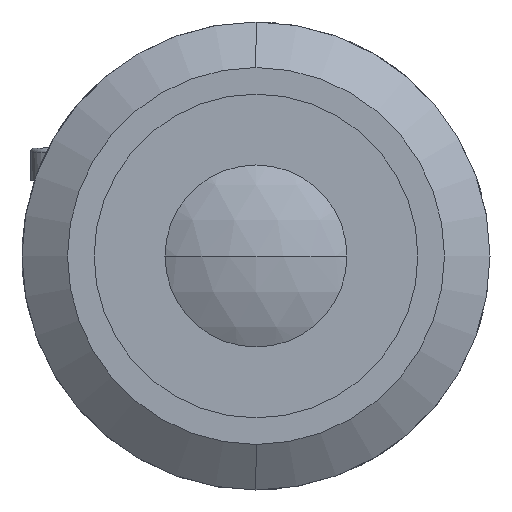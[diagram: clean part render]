
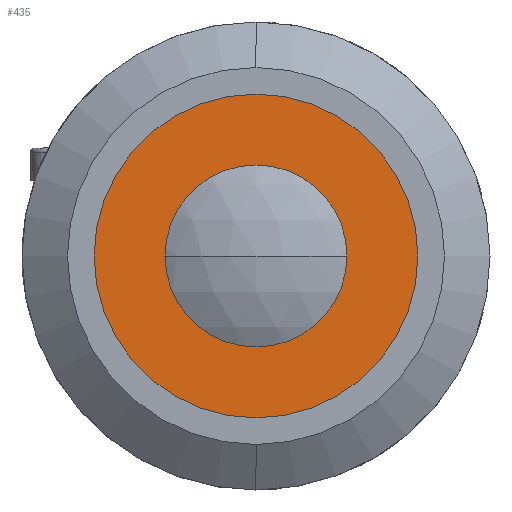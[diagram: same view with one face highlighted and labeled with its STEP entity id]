
A CAD part, left-side view. The second image highlights one B-rep face of the part: STEP entity #435.
In plain terms, the highlighted planar face has unit normal (-1, 0, 0).
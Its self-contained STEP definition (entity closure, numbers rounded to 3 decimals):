
#24 = ORIENTED_EDGE ( 'NONE', *, *, #46, .F. ) ;
#46 = EDGE_CURVE ( 'NONE', #2721, #3074, #2864, .T. ) ;
#83 = ORIENTED_EDGE ( 'NONE', *, *, #215, .T. ) ;
#105 = ORIENTED_EDGE ( 'NONE', *, *, #117, .T. ) ;
#117 = EDGE_CURVE ( 'NONE', #3354, #1066, #2654, .T. ) ;
#181 = EDGE_LOOP ( 'NONE', ( #3461, #24 ) ) ;
#215 = EDGE_CURVE ( 'NONE', #1066, #3354, #2392, .T. ) ;
#368 = DIRECTION ( 'NONE',  ( 0., 0., 1. ) ) ;
#435 = ADVANCED_FACE ( 'NONE', ( #1923, #2050 ), #3325, .F. ) ;
#569 = DIRECTION ( 'NONE',  ( -1., 0., 0. ) ) ;
#584 = CARTESIAN_POINT ( 'NONE',  ( 3.8, 0., 0. ) ) ;
#614 = EDGE_LOOP ( 'NONE', ( #83, #105 ) ) ;
#776 = AXIS2_PLACEMENT_3D ( 'NONE', #2545, #871, #2877 ) ;
#871 = DIRECTION ( 'NONE',  ( -1., 0., 0. ) ) ;
#1066 = VERTEX_POINT ( 'NONE', #2098 ) ;
#1125 = CARTESIAN_POINT ( 'NONE',  ( 3.8, 13., 0. ) ) ;
#1162 = CARTESIAN_POINT ( 'NONE',  ( 3.8, 0., 0. ) ) ;
#1195 = CARTESIAN_POINT ( 'NONE',  ( 3.8, 0., 0. ) ) ;
#1443 = DIRECTION ( 'NONE',  ( 0., 0., 1. ) ) ;
#1444 = CARTESIAN_POINT ( 'NONE',  ( 3.8, 0., 7. ) ) ;
#1479 = DIRECTION ( 'NONE',  ( 0., 0., 1. ) ) ;
#1564 = EDGE_CURVE ( 'NONE', #3074, #2721, #2814, .T. ) ;
#1713 = DIRECTION ( 'NONE',  ( 0., 0., -1. ) ) ;
#1923 = FACE_BOUND ( 'NONE', #181, .T. ) ;
#2050 = FACE_OUTER_BOUND ( 'NONE', #614, .T. ) ;
#2098 = CARTESIAN_POINT ( 'NONE',  ( 3.8, 0., 13. ) ) ;
#2278 = AXIS2_PLACEMENT_3D ( 'NONE', #1125, #3332, #1713 ) ;
#2392 = CIRCLE ( 'NONE', #2578, 13. ) ;
#2545 = CARTESIAN_POINT ( 'NONE',  ( 3.8, 0., 0. ) ) ;
#2578 = AXIS2_PLACEMENT_3D ( 'NONE', #1195, #3155, #1479 ) ;
#2623 = AXIS2_PLACEMENT_3D ( 'NONE', #1162, #3124, #1443 ) ;
#2654 = CIRCLE ( 'NONE', #2623, 13. ) ;
#2721 = VERTEX_POINT ( 'NONE', #3277 ) ;
#2734 = CARTESIAN_POINT ( 'NONE',  ( 3.8, 0., -13. ) ) ;
#2791 = AXIS2_PLACEMENT_3D ( 'NONE', #584, #569, #368 ) ;
#2814 = CIRCLE ( 'NONE', #776, 7. ) ;
#2864 = CIRCLE ( 'NONE', #2791, 7. ) ;
#2877 = DIRECTION ( 'NONE',  ( 0., 0., 1. ) ) ;
#3074 = VERTEX_POINT ( 'NONE', #1444 ) ;
#3124 = DIRECTION ( 'NONE',  ( -1., 0., 0. ) ) ;
#3155 = DIRECTION ( 'NONE',  ( -1., 0., 0. ) ) ;
#3277 = CARTESIAN_POINT ( 'NONE',  ( 3.8, 0., -7. ) ) ;
#3325 = PLANE ( 'NONE',  #2278 ) ;
#3332 = DIRECTION ( 'NONE',  ( 1., 0., 0. ) ) ;
#3354 = VERTEX_POINT ( 'NONE', #2734 ) ;
#3461 = ORIENTED_EDGE ( 'NONE', *, *, #1564, .F. ) ;
